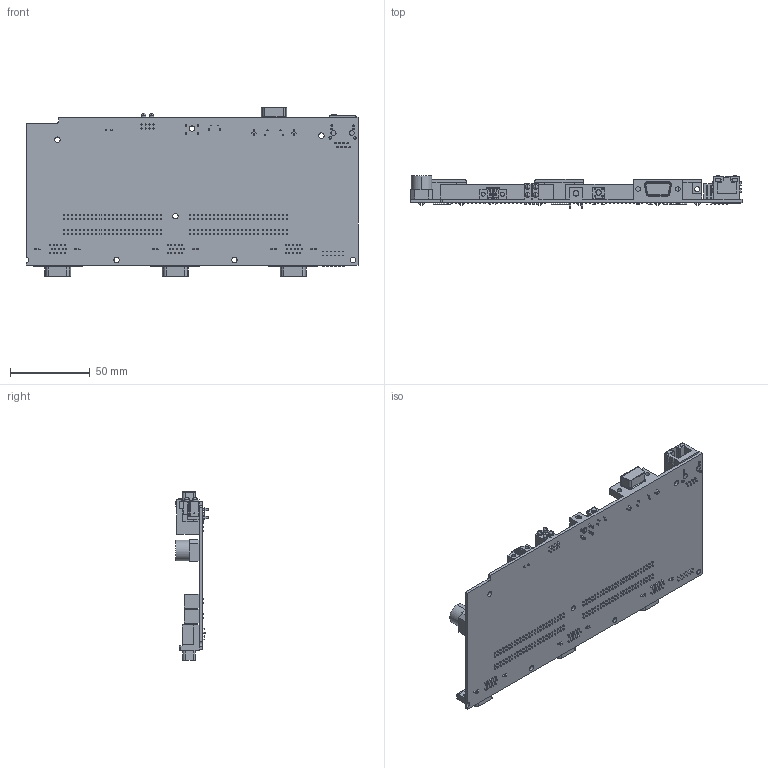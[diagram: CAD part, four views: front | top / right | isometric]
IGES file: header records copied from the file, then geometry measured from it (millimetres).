
Start section:  PTC IGES file: cu_sbrio-960x.igs
Global section: file name: cu_sbrio-960x.igs; native system: Pro/ENGINEER by Parametric Technology Corporation; preprocessor: 2006300; author: scarrasc; organization: Unknown; date: 20080731.155454; units: inch
Bounding box: 208.28 x 20.62 x 105.89 mm (x, y, z)
Surface area: 64559.1 mm2 (no closed solid volume)
Topology: 0 solids, 0 shells, 3264 faces, 16057 edges, 16047 vertices
Faces by surface type: bspline 2983, revolution 281
